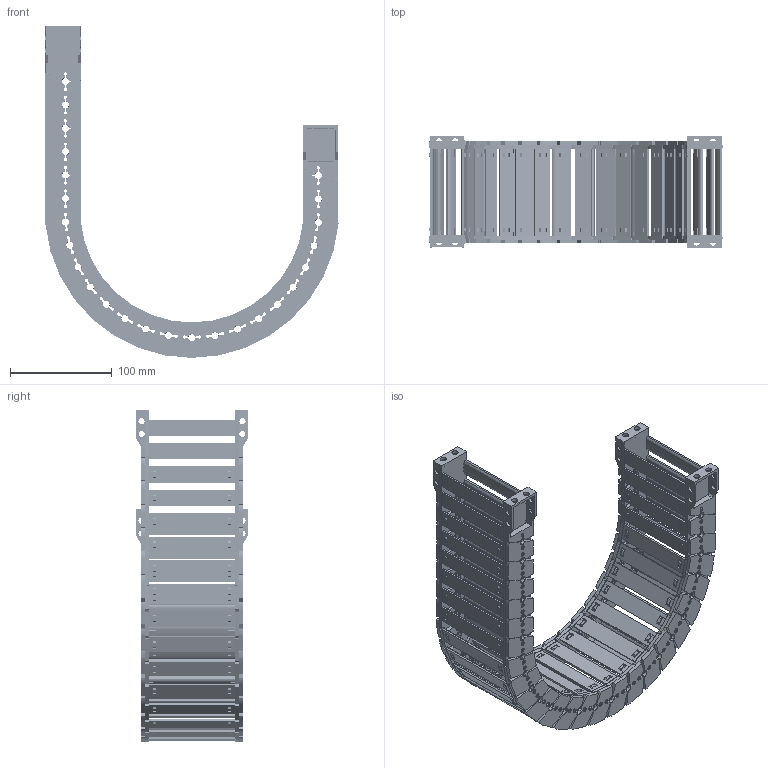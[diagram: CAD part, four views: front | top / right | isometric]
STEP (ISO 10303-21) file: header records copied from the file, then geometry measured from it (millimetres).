
FILE_DESCRIPTION(/* description */ (''),/* implementation_level */ '2;1');
FILE_NAME(/* name */ 'JY28-85-R125.stp',/* time_stamp */ '2026-06-03T16:29:38+08:00',/* author */ (''),/* organization */ (''),/* preprocessor_version */ 'ST-DEVELOPER v19.4',/* originating_system */ 'SIEMENS PLM Software NX2306.5001',/* authorisation */ '');
FILE_SCHEMA (('AP203_CONFIGURATION_CONTROLLED_3D_DESIGN_OF_MECHANICAL_PARTS_AND_ASSEMBLIES_MIM_LF { 1 0 10303 403 2 1 2}'));
Products named in the file (1): 简化图纸_objects
Bounding box: 287.57 x 109 x 325.62 mm (x, y, z)
Volume: 515519.9 mm3; surface area: 372862 mm2
Topology: 98 solids, 98 shells, 8138 faces, 23150 edges, 15130 vertices
Faces by surface type: plane 5330, cone 1480, cylinder 1278, bspline 48, torus 2
Full cylindrical faces by diameter (mm): 6 x24
Entity records: 275371 total; most frequent: CARTESIAN_POINT 61217, ORIENTED_EDGE 46208, DIRECTION 43382, EDGE_CURVE 23104, LINE 15292, VECTOR 15292, VERTEX_POINT 15108, AXIS2_PLACEMENT_3D 14045
